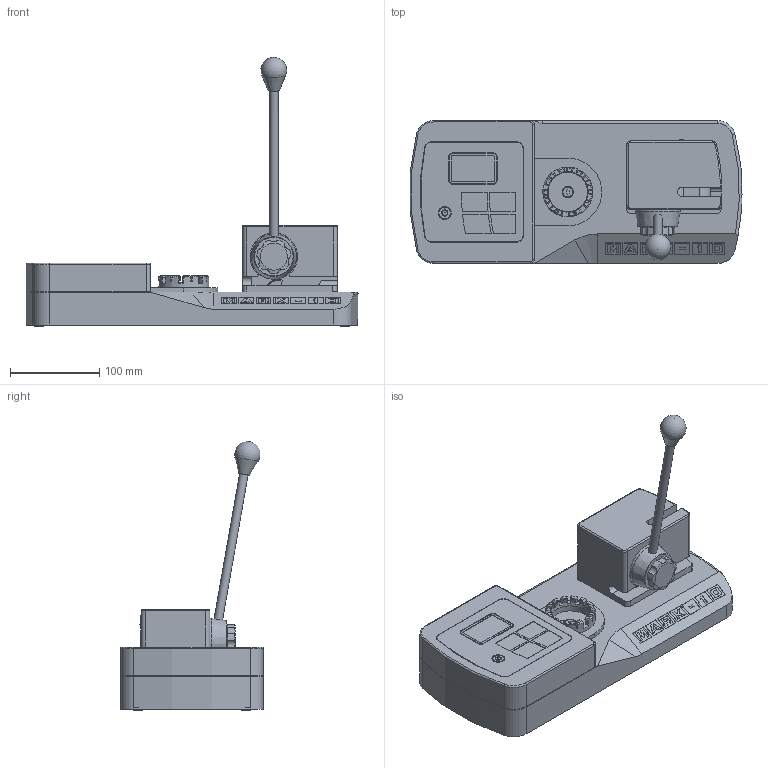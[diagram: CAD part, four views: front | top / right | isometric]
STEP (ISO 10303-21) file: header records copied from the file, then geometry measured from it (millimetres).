
FILE_DESCRIPTION((''),'2;1');
FILE_NAME('F:\CAD files\Itr\3D MARKETING MODELS\WIRE TERMINAL TESTERS\WT3-201\WT3-201.stp','2017-04-18T11:55:05',('mlampen'),(''),'Autodesk Inventor 2010','Autodesk Inventor 2010','');
FILE_SCHEMA(('AUTOMOTIVE_DESIGN { 1 0 10303 214 1 1 1 1 }'));
Length unit declared in the file: inch
Products named in the file (3): Assembly1; Part2; Part4
Assembly tree (2 placements, depth 2):
  Assembly1
    Part2
    Part4
Bounding box: 372.23 x 160.02 x 301.82 mm (x, y, z)
Volume: 3411616.1 mm3; surface area: 252437.7 mm2
Topology: 7 solids, 7 shells, 1317 faces, 3360 edges, 2189 vertices
Faces by surface type: plane 620, cylinder 343, cone 207, bspline 125, torus 20, sphere 2
Full cylindrical faces by diameter (mm): 1.016 x10, 2.5 x1, 2.845 x4, 3.048 x2, 3.175 x2, 6.299 x1, 6.35 x6, 9.271 x1, 9.525 x7, 11.122 x1, 11.43 x4, 12.7 x3, 13.081 x1, 13.462 x2, 14.351 x1, 15.062 x1, 21.59 x1, 22.86 x1, 44.45 x1, 50.292 x1, 55.88 x1, 55.905 x1
Entity records: 42616 total; most frequent: CARTESIAN_POINT 11778, ORIENTED_EDGE 6450, DIRECTION 6229, EDGE_CURVE 3225, AXIS2_PLACEMENT_3D 2291, VERTEX_POINT 2141, VECTOR 1647, LINE 1647
